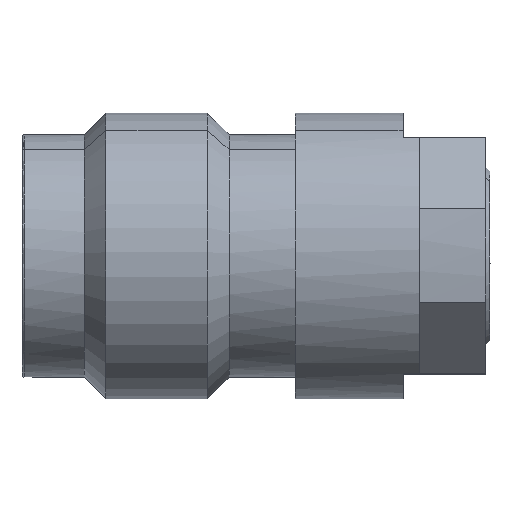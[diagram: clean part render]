
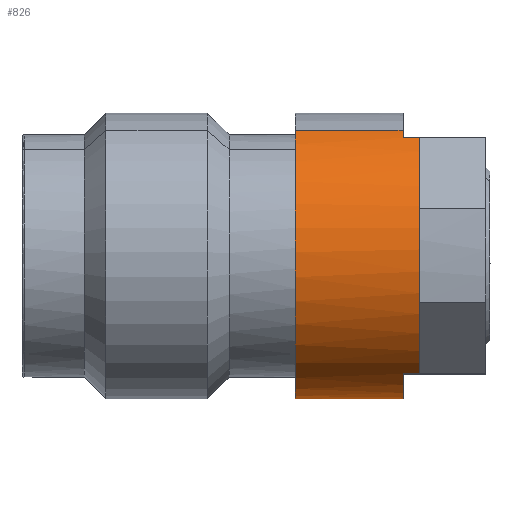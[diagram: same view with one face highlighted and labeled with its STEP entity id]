
A CAD part, top view. The second image highlights one B-rep face of the part: STEP entity #826.
In plain terms, the highlighted cylindrical face has radius 3.45 mm (diameter 6.9 mm), a partial arc.
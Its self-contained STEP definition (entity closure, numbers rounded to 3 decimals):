
#455=CARTESIAN_POINT('Vertex',(9.6,-2.85,1.944)) ;
#458=CARTESIAN_POINT('Line Origine',(9.4,-2.85,1.944)) ;
#462=CARTESIAN_POINT('Vertex',(9.2,-2.85,1.944)) ;
#497=CARTESIAN_POINT('Vertex',(9.2,-3.028,-1.654)) ;
#500=CARTESIAN_POINT('Line Origine',(7.501,-3.028,-1.654)) ;
#504=CARTESIAN_POINT('Vertex',(6.6,-3.028,-1.654)) ;
#511=CARTESIAN_POINT('Vertex',(6.6,3.028,1.654)) ;
#514=CARTESIAN_POINT('Line Origine',(7.501,3.028,1.654)) ;
#518=CARTESIAN_POINT('Vertex',(9.2,3.028,1.654)) ;
#558=CARTESIAN_POINT('Vertex',(9.2,2.85,1.944)) ;
#561=CARTESIAN_POINT('Line Origine',(9.4,2.85,1.944)) ;
#565=CARTESIAN_POINT('Vertex',(9.6,2.85,1.944)) ;
#765=CARTESIAN_POINT('Control Point',(9.6,2.85,1.944)) ;
#766=CARTESIAN_POINT('Control Point',(9.6,2.645,2.245)) ;
#767=CARTESIAN_POINT('Control Point',(9.6,2.4,2.518)) ;
#768=CARTESIAN_POINT('Control Point',(9.6,2.12,2.758)) ;
#769=CARTESIAN_POINT('Control Point',(9.6,1.505,3.158)) ;
#770=CARTESIAN_POINT('Control Point',(9.6,0.806,3.384)) ;
#771=CARTESIAN_POINT('Control Point',(9.6,0.444,3.451)) ;
#772=CARTESIAN_POINT('Control Point',(9.6,-0.29,3.486)) ;
#773=CARTESIAN_POINT('Control Point',(9.6,-1.007,3.33)) ;
#774=CARTESIAN_POINT('Control Point',(9.6,-1.353,3.205)) ;
#775=CARTESIAN_POINT('Control Point',(9.6,-1.903,2.92)) ;
#776=CARTESIAN_POINT('Control Point',(9.6,-2.374,2.522)) ;
#777=CARTESIAN_POINT('Control Point',(9.6,-2.55,2.344)) ;
#778=CARTESIAN_POINT('Control Point',(9.6,-2.709,2.15)) ;
#779=CARTESIAN_POINT('Control Point',(9.6,-2.85,1.944)) ;
#794=CARTESIAN_POINT('Axis2P3D Location',(7.501,0.,0.)) ;
#799=CARTESIAN_POINT('Axis2P3D Location',(9.2,0.,0.)) ;
#804=CARTESIAN_POINT('Axis2P3D Location',(6.6,0.,0.)) ;
#810=CARTESIAN_POINT('Control Point',(9.2,-2.85,1.944)) ;
#811=CARTESIAN_POINT('Control Point',(9.2,-3.384,1.161)) ;
#812=CARTESIAN_POINT('Control Point',(9.2,-3.632,0.179)) ;
#813=CARTESIAN_POINT('Control Point',(9.2,-3.482,-0.822)) ;
#814=CARTESIAN_POINT('Control Point',(9.2,-3.028,-1.654)) ;
#459=DIRECTION('Vector Direction',(-1.,0.,0.)) ;
#501=DIRECTION('Vector Direction',(1.,0.,0.)) ;
#515=DIRECTION('Vector Direction',(1.,0.,0.)) ;
#562=DIRECTION('Vector Direction',(-1.,0.,0.)) ;
#795=DIRECTION('Axis2P3D Direction',(1.,0.,0.)) ;
#796=DIRECTION('Axis2P3D XDirection',(0.,0.878,0.479)) ;
#800=DIRECTION('Axis2P3D Direction',(1.,0.,0.)) ;
#805=DIRECTION('Axis2P3D Direction',(1.,0.,0.)) ;
#797=AXIS2_PLACEMENT_3D('Cylinder Axis2P3D',#794,#795,#796) ;
#801=AXIS2_PLACEMENT_3D('Circle Axis2P3D',#799,#800,$) ;
#806=AXIS2_PLACEMENT_3D('Circle Axis2P3D',#804,#805,$) ;
#817=ORIENTED_EDGE('',*,*,#780,.F.) ;
#818=ORIENTED_EDGE('',*,*,#567,.T.) ;
#819=ORIENTED_EDGE('',*,*,#803,.F.) ;
#820=ORIENTED_EDGE('',*,*,#520,.F.) ;
#821=ORIENTED_EDGE('',*,*,#808,.T.) ;
#822=ORIENTED_EDGE('',*,*,#506,.T.) ;
#823=ORIENTED_EDGE('',*,*,#815,.F.) ;
#824=ORIENTED_EDGE('',*,*,#464,.F.) ;
#460=VECTOR('Line Direction',#459,1.) ;
#502=VECTOR('Line Direction',#501,1.) ;
#516=VECTOR('Line Direction',#515,1.) ;
#563=VECTOR('Line Direction',#562,1.) ;
#826=ADVANCED_FACE('',(#825),#798,.T.) ;
#764=B_SPLINE_CURVE_WITH_KNOTS('',5,(#765,#766,#767,#768,#769,#770,#771,#772,#773,#774,#775,#776,#777,#778,#779),.UNSPECIFIED.,.F.,.U.,(6,3,3,3,6),(0.,2.58,5.161,7.741,9.511),.UNSPECIFIED.) ;
#809=B_SPLINE_CURVE_WITH_KNOTS('',4,(#810,#811,#812,#813,#814),.UNSPECIFIED.,.F.,.U.,(5,5),(-1.895,1.895),.UNSPECIFIED.) ;
#802=CIRCLE('generated circle',#801,3.45) ;
#807=CIRCLE('generated circle',#806,3.45) ;
#798=CYLINDRICAL_SURFACE('generated cylinder',#797,3.45) ;
#464=EDGE_CURVE('',#456,#463,#461,.T.) ;
#506=EDGE_CURVE('',#505,#498,#503,.T.) ;
#520=EDGE_CURVE('',#512,#519,#517,.T.) ;
#567=EDGE_CURVE('',#566,#559,#564,.T.) ;
#780=EDGE_CURVE('',#566,#456,#764,.T.) ;
#803=EDGE_CURVE('',#519,#559,#802,.T.) ;
#808=EDGE_CURVE('',#512,#505,#807,.T.) ;
#815=EDGE_CURVE('',#463,#498,#809,.T.) ;
#816=EDGE_LOOP('',(#817,#818,#819,#820,#821,#822,#823,#824)) ;
#825=FACE_OUTER_BOUND('',#816,.T.) ;
#461=LINE('Line',#458,#460) ;
#503=LINE('Line',#500,#502) ;
#517=LINE('Line',#514,#516) ;
#564=LINE('Line',#561,#563) ;
#456=VERTEX_POINT('',#455) ;
#463=VERTEX_POINT('',#462) ;
#498=VERTEX_POINT('',#497) ;
#505=VERTEX_POINT('',#504) ;
#512=VERTEX_POINT('',#511) ;
#519=VERTEX_POINT('',#518) ;
#559=VERTEX_POINT('',#558) ;
#566=VERTEX_POINT('',#565) ;
